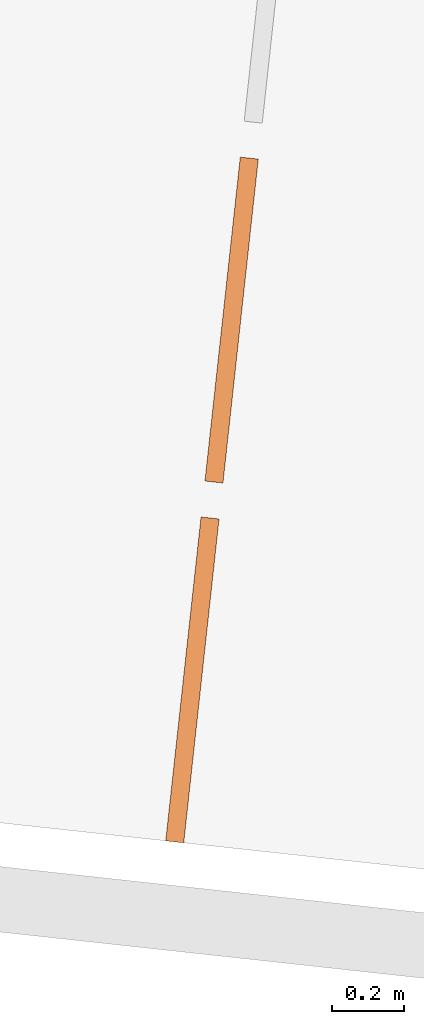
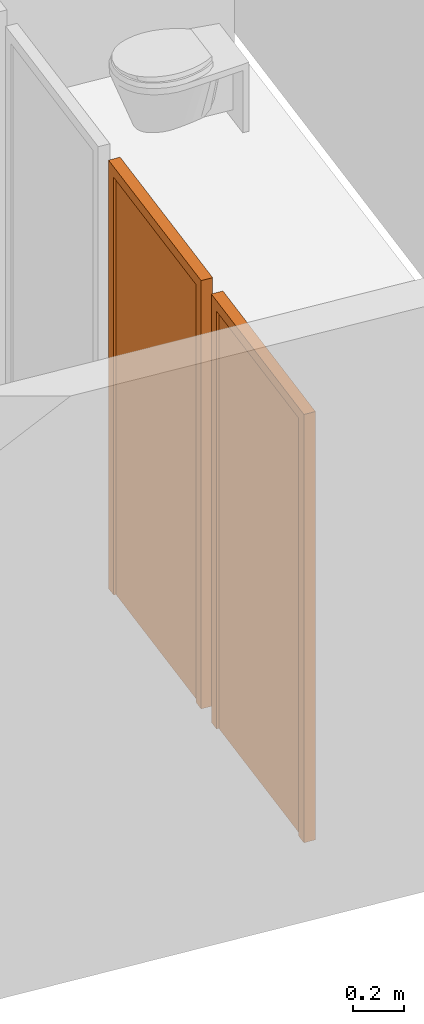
# One storey, part 35 of 79: 2 proxies.
"""IFC2X3 building model written with IfcOpenShell, lengths in metres."""

from ifc_helpers import new_model, entity, si_unit, converted_unit, derived_unit, money_unit, direction, frame, origin_with_axes, place, context, subcontext, project, spatial, faceted_brep, source, transform, mapped, material, type_object, element, save


model = new_model("IFC2X3")

# Units and contexts
model_context = context("Model", 3, precision=1e-05, world=origin_with_axes(), true_north=direction((0.0, 1.0)))
body_context = subcontext(model_context, "Body", "Model", "MODEL_VIEW")
ifc_project = project(units=[si_unit("LENGTHUNIT", "METRE"), si_unit("AREAUNIT", "SQUARE_METRE"), si_unit("VOLUMEUNIT", "CUBIC_METRE"), converted_unit("PLANEANGLEUNIT", "DEGREE", entity("IfcPlaneAngleMeasure", 0.0174532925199), si_unit("PLANEANGLEUNIT", "RADIAN"), dimensions=[0, 0, 0, 0, 0, 0, 0]), money_unit("CHF"), converted_unit("TIMEUNIT", "Year", entity("IfcTimeMeasure", 31556926.0), si_unit("TIMEUNIT", "SECOND"), dimensions=[0, 0, 1, 0, 0, 0, 0]), si_unit("MASSUNIT", "GRAM", prefix="KILO"), si_unit("THERMODYNAMICTEMPERATUREUNIT", "DEGREE_CELSIUS"), si_unit("LUMINOUSINTENSITYUNIT", "LUMEN"), si_unit("ENERGYUNIT", "JOULE", prefix="MEGA"), derived_unit("THERMALCONDUCTANCEUNIT", [(si_unit("POWERUNIT", "WATT"), 1), (si_unit("LENGTHUNIT", "METRE"), -1), (si_unit("THERMODYNAMICTEMPERATUREUNIT", "KELVIN"), -1)]), derived_unit("SPECIFICHEATCAPACITYUNIT", [(si_unit("ENERGYUNIT", "JOULE"), 1), (si_unit("MASSUNIT", "GRAM", prefix="KILO"), -1), (si_unit("THERMODYNAMICTEMPERATUREUNIT", "KELVIN"), -1)]), derived_unit("MASSDENSITYUNIT", [(si_unit("MASSUNIT", "GRAM", prefix="KILO"), 1), (si_unit("VOLUMEUNIT", "CUBIC_METRE"), -1)])], contexts=[model_context])

# Site, building, storey
site_placement = place(None, frame((0.0, 0.0, 0.0), z_axis=(0.0, 0.0, 1.0), x_axis=(-0.177771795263, -0.984071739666, 0.0)))
site = spatial("IfcSite", under=ifc_project, at=site_placement, Name="Site", CompositionType="ELEMENT")
building_placement = place(site_placement, origin_with_axes())
building = spatial("IfcBuilding", under=site, at=building_placement, Name="Bâtiment", CompositionType="ELEMENT")
storey_placement = place(building_placement, origin_with_axes())
storey = spatial("IfcBuildingStorey", under=building, at=storey_placement, Name="RDC", CompositionType="ELEMENT", Elevation=0.0)

# Proxies
ifc_material = material(Name="Matériau de construction IFC")
building_element_proxy_type = type_object("IfcBuildingElementProxyType", Name="Porte 21", PredefinedType="NOTDEFINED")
shared_shape = source(origin_with_axes(), body_context, "Body", "Brep", [
    faceted_brep([(0.0, 0.1, 0.0), (0.05, 0.1, 0.0), (0.05, 0.05, 0.0), (0.0, 0.05, 0.0), (0.0, 0.1, 2.0), (0.05, 0.1, 2.0), (0.05, 0.05, 2.0), (0.0, 0.05, 2.0)], [[[0, 1, 2, 3]], [[0, 4, 5, 1]], [[1, 5, 6, 2]], [[3, 2, 6, 7]], [[4, 0, 3, 7]], [[5, 4, 7, 6]]]),
    faceted_brep([(0.9, 0.1, 0.0), (0.9, 0.1, 2.0), (0.9, 0.05, 2.0), (0.9, 0.05, 0.0), (0.85, 0.1, 0.0), (0.85, 0.1, 2.0), (0.85, 0.05, 2.0), (0.85, 0.05, 0.0)], [[[0, 1, 2, 3]], [[0, 4, 5, 1]], [[1, 5, 6, 2]], [[3, 2, 6, 7]], [[4, 0, 3, 7]], [[5, 4, 7, 6]]]),
    faceted_brep([(0.0, 0.1, 2.05), (0.0, 0.1, 2.0), (0.0, 0.05, 2.0), (0.0, 0.05, 2.05), (0.9, 0.1, 2.05), (0.9, 0.1, 2.0), (0.85, 0.1, 2.0), (0.05, 0.1, 2.0), (0.05, 0.05, 2.0), (0.85, 0.05, 2.0), (0.9, 0.05, 2.0), (0.9, 0.05, 2.05)], [[[0, 1, 2, 3]], [[0, 4, 5, 6, 7, 1]], [[1, 7, 8, 2]], [[3, 2, 8, 9, 10, 11]], [[4, 0, 3, 11]], [[5, 4, 11, 10]], [[6, 5, 10, 9]], [[7, 6, 9, 8]]]),
    faceted_brep([(0.85, 0.1, 0.0), (0.85, 0.06, 0.0), (0.05, 0.06, 0.0), (0.05, 0.1, 0.0), (0.85, 0.1, 2.0), (0.85, 0.06, 2.0), (0.05, 0.06, 2.0), (0.05, 0.1, 2.0)], [[[0, 1, 2, 3]], [[4, 5, 1, 0]], [[1, 5, 6, 2]], [[3, 2, 6, 7]], [[0, 3, 7, 4]], [[7, 6, 5, 4]]]),
])
for number, where, z_axis, x_axis in (
    (1, (139.76493613, -122.104401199, 0.05), (0.0, 0.0, 1.0), (0.997543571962, 0.0700487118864, 0.0)),
    (2, (140.762479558, -122.034352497, 0.05), (0.0, 0.0, 1.0), (0.997543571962, 0.0700487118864, 0.0)),
):
    element("IfcBuildingElementProxy", number, at=place(storey_placement, frame(where, z_axis=z_axis, x_axis=x_axis)), inside=storey, type_object=building_element_proxy_type, material=ifc_material, Name="P_Int BlocSanit", context=body_context, shape_type="MappedRepresentation", body=[
        mapped(shared_shape, transform((0.0, 0.0, 0.0))),
    ])

save(model, "model.ifc")
